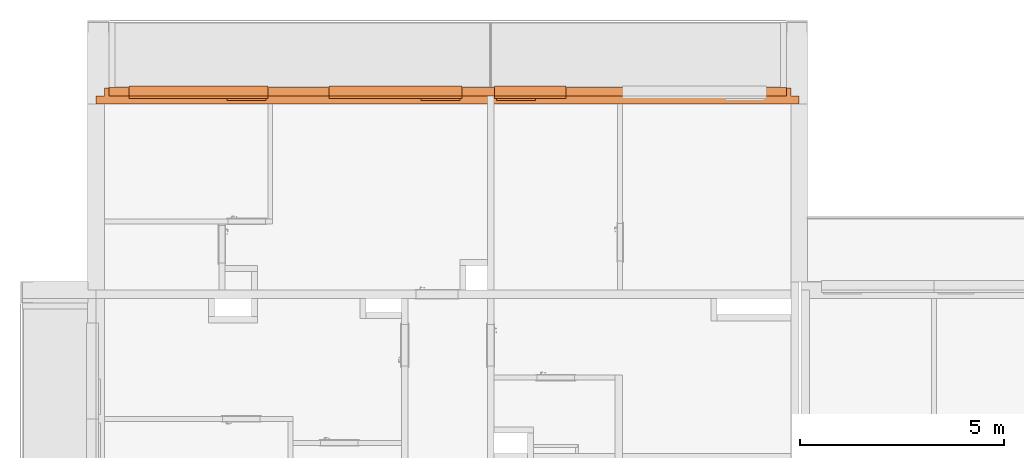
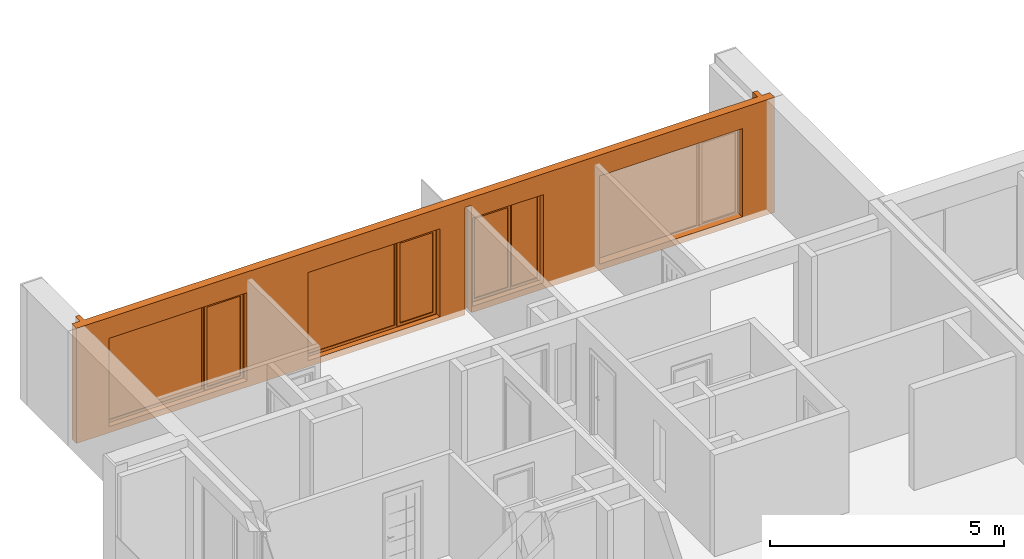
# One storey, part 48 of 66: 4 proxies, 4 openings.
"""IFC2X3 building model written with IfcOpenShell, lengths in millimetres."""

from ifc_helpers import new_model, entity, si_unit, converted_unit, derived_unit, money_unit, direction, frame, origin_with_axes, origin_2d_with_axis, place, context, subcontext, project, spatial, rectangle, extrude, open_shell, faceted_brep, surface_model, source, transform, mapped, material, material_list, type_object, element, fill, save


model = new_model("IFC2X3")

# Units and contexts
model_context = context("Model", 3, precision=0.01, world=origin_with_axes(), true_north=direction((0.34421633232, 0.938890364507)))
body_context = subcontext(model_context, "Body", "Model", "MODEL_VIEW")
ifc_project = project(units=[si_unit("LENGTHUNIT", "METRE", prefix="MILLI"), si_unit("AREAUNIT", "SQUARE_METRE"), si_unit("VOLUMEUNIT", "CUBIC_METRE"), converted_unit("PLANEANGLEUNIT", "DEGREE", entity("IfcPlaneAngleMeasure", 0.0174532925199), si_unit("PLANEANGLEUNIT", "RADIAN"), dimensions=[0, 0, 0, 0, 0, 0, 0]), si_unit("SOLIDANGLEUNIT", "STERADIAN"), money_unit("USD"), converted_unit("TIMEUNIT", "Year", entity("IfcTimeMeasure", 31556926.0), si_unit("TIMEUNIT", "SECOND"), dimensions=[0, 0, 1, 0, 0, 0, 0]), si_unit("MASSUNIT", "GRAM", prefix="KILO"), si_unit("THERMODYNAMICTEMPERATUREUNIT", "DEGREE_CELSIUS"), si_unit("LUMINOUSINTENSITYUNIT", "LUMEN"), si_unit("ENERGYUNIT", "JOULE", prefix="MEGA"), derived_unit("THERMALCONDUCTANCEUNIT", [(si_unit("POWERUNIT", "WATT"), 1), (si_unit("LENGTHUNIT", "METRE"), -1), (si_unit("THERMODYNAMICTEMPERATUREUNIT", "KELVIN"), -1)]), derived_unit("SPECIFICHEATCAPACITYUNIT", [(si_unit("ENERGYUNIT", "JOULE"), 1), (si_unit("MASSUNIT", "GRAM", prefix="KILO"), -1), (si_unit("THERMODYNAMICTEMPERATUREUNIT", "KELVIN"), -1)]), derived_unit("MASSDENSITYUNIT", [(si_unit("MASSUNIT", "GRAM", prefix="KILO"), 1), (si_unit("VOLUMEUNIT", "CUBIC_METRE"), -1)])], contexts=[model_context])

# Site, building, storey
site_placement = place(None, origin_with_axes())
site = spatial("IfcSite", under=ifc_project, at=site_placement, Name="USTRONIE MORSKIE", CompositionType="ELEMENT")
building_placement = place(site_placement, origin_with_axes())
building = spatial("IfcBuilding", under=site, at=building_placement, Name="Budynek", CompositionType="ELEMENT")
storey_placement = place(building_placement, frame((0.0, 0.0, 10000.0), z_axis=(0.0, 0.0, 1.0), x_axis=(1.0, 0.0, 0.0)))
storey = spatial("IfcBuildingStorey", under=building, at=storey_placement, Name="PIĘTRO 3", CompositionType="ELEMENT", Elevation=10000.0)

# Proxies, openings
ifc_material_1 = material(Name="Tynk zewnętrzny")
ifc_material_2 = material(Name="Wełna ELEW")
ifc_material_3 = material(Name="Beton konstrukcyjny B25")
ifc_material_list = material_list([ifc_material_1, ifc_material_2, ifc_material_3])
building_element_proxy_type_1 = type_object("IfcBuildingElementProxyType", Name="20+20 410", PredefinedType="NOTDEFINED")
proxy_1_placement = place(storey_placement, frame((350067.920919, 749451.199036, -160.0), z_axis=(0.0, 0.0, 1.0), x_axis=(1.0, 0.0, 0.0)))
proxy_1 = element("IfcBuildingElementProxy", 1, at=proxy_1_placement, inside=storey, type_object=building_element_proxy_type_1, material=ifc_material_list, Name="SZ-01", context=body_context, shape_type="Brep", body=[
    faceted_brep([(200.0, 300.0, 0.0), (200.0, 310.0, 0.0), (210.132928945, 310.0, 0.0), (210.132837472, 299.997991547, 2.27125624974e-05), (200.0, 300.0, 3000.0), (200.0, 310.0, 3000.0), (209.867070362, 310.0, 2999.9999951), (209.867070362, 310.0, 2789.99999183), (16789.8670711, 309.997397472, 2789.99999183), (16789.8670711, 309.99788162, 2800.00001425), (16789.8670711, 310.0, 2999.9999951), (16800.0, 310.0, 3000.0), (16800.0, 310.0, 0.0), (16790.1329296, 310.0, 0.0), (16790.1329296, 310.0, 9.99999626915), (210.132928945, 310.0, 9.9999962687), (210.132837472, 299.997970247, 9.99999623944), (16790.1328382, 300.0, 9.99999623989), (16790.1328382, 300.0, 0.0), (16800.0, 300.0, 0.0), (16800.0, 300.0, 3000.0), (16789.8671625, 299.997991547, 3000.00002271), (16789.8671625, 300.0, 2800.00001286), (209.867161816, 300.0, 2800.00001288), (209.867161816, 300.0, 2999.99999495), (209.867071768, 309.846250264, 2800.00001425), (209.867071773, 309.845766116, 2789.99999183)], [[[0, 1, 2, 3]], [[0, 4, 5, 1]], [[6, 7, 8, 9, 10, 11, 12, 13, 14, 15, 2, 1, 5]], [[16, 3, 2, 15]], [[4, 0, 3, 16, 17, 18, 19, 20, 21, 22, 23, 24]], [[4, 24, 6, 5]], [[25, 26, 7, 6, 24, 23]], [[7, 26, 8]], [[26, 25, 9, 8]], [[9, 22, 21, 10]], [[10, 21, 20, 11]], [[20, 19, 12, 11]], [[18, 13, 12, 19]], [[18, 17, 14, 13]], [[17, 16, 15, 14]], [[25, 23, 22, 9]]]),
    faceted_brep([(16789.8680771, 199.997967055, 2799.99999896), (16789.8689916, 99.9979946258, 2799.99999896), (16789.8689916, 99.9979946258, 3000.00002048), (16789.8680771, 199.997967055, 3000.00002048), (16789.8671625, 299.997991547, 3000.00002271), (16789.8671625, 300.0, 2800.00001286), (209.868077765, 199.846335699, 2799.99999896), (209.868990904, 100.0, 2799.99999896), (209.868990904, 100.0, 3000.00002048), (100.0, 100.0, 3000.0), (100.0, 100.0, 0.0), (16900.0, 100.0, 0.0), (16900.0, 100.0, 3000.0), (16900.0, 300.0, 3000.0), (209.867161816, 300.0, 3000.00002271), (209.867161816, 300.0, 2800.00001288), (16900.0, 300.0, 0.0), (16790.1328382, 300.0, -5.04920549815e-06), (16790.1328382, 300.0, 9.99999623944), (210.13283749, 300.0, 9.99999623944), (210.132837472, 299.997970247, -5.05150943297e-06), (100.0, 300.0, 0.0), (100.0, 300.0, 3000.0), (209.868077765, 199.846335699, 3000.00002048), (16790.1328368, 299.846338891, -5.05150943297e-06), (16790.1328368, 299.846338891, 9.99999623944)], [[[0, 1, 2, 3, 4, 5]], [[0, 6, 7, 1]], [[7, 8, 9, 10, 11, 12, 2, 1]], [[3, 2, 12, 13, 4]], [[14, 15, 5, 4, 13, 16, 17, 18, 19, 20, 21, 22]], [[6, 0, 5, 15]], [[23, 8, 7, 6, 15, 14]], [[8, 23, 14, 22, 9]], [[10, 9, 22, 21]], [[21, 20, 24, 17, 16, 11, 10]], [[13, 12, 11, 16]], [[24, 25, 18, 17]], [[25, 19, 18]], [[19, 25, 24, 20]]]),
    faceted_brep([(9469.99997834, 100.0, 2800.0), (9469.99997834, 100.0, 0.0), (-100.0, 100.0, 0.0), (-100.0, 100.0, 3000.0), (17100.0, 100.0, 3000.0), (17100.0, 100.0, 0.0), (9629.99997834, 100.0, 0.0), (9629.99997834, 100.0, 2800.0), (9469.99997834, -100.0, 2800.0), (9469.99997834, -100.0, 0.0), (-100.0, -100.0, 0.0), (-100.0, -100.0, 3000.0), (17100.0, -100.0, 3000.0), (17100.0, -100.0, 0.0), (9629.99997834, -100.0, 0.0), (9629.99997834, -100.0, 2800.0)], [[[0, 1, 2, 3, 4, 5, 6, 7]], [[1, 0, 8, 9]], [[1, 9, 10, 2]], [[10, 11, 3, 2]], [[12, 4, 3, 11]], [[4, 12, 13, 5]], [[14, 6, 5, 13]], [[7, 6, 14, 15]], [[0, 7, 15, 8]], [[15, 14, 13, 12, 11, 10, 9, 8]]]),
])
opening_1_placement = place(proxy_1_placement, frame((2400.0, 0.0, 160.0), z_axis=(0.0, 0.0, 1.0), x_axis=(1.0, 0.0, 0.0)))
opening_1 = element("IfcOpeningElement", 2, at=opening_1_placement, cuts=proxy_1, Name="Wz.02", context=body_context, shape_type="SweptSolid", body=[
    extrude(rectangle(XDim=3400.0, YDim=2300.0, at=origin_2d_with_axis()), frame((0.0, 99.9999999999, 1150.0), z_axis=(0.0, 1.0, 0.0), x_axis=(1.0, 0.0, 0.0)), (0.0, 0.0, 1.0), 620.0),
    extrude(rectangle(XDim=3400.0, YDim=2300.0, at=origin_2d_with_axis()), frame((0.0, 100.0, 1150.0), z_axis=(0.0, -1.0, 0.0), x_axis=(1.0, 0.0, 0.0)), (0.0, 0.0, 1.0), 610.0),
])
opening_2_placement = place(proxy_1_placement, frame((7224.99942067, 0.0, 160.0), z_axis=(0.0, 0.0, 1.0), x_axis=(1.0, 0.0, 0.0)))
opening_2 = element("IfcOpeningElement", 3, at=opening_2_placement, cuts=proxy_1, Name="Wz.02", context=body_context, shape_type="SweptSolid", body=[
    extrude(rectangle(XDim=3249.99884135, YDim=2300.0, at=origin_2d_with_axis()), frame((0.0, 99.9999999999, 1150.0), z_axis=(0.0, 1.0, 0.0), x_axis=(1.0, 0.0, 0.0)), (0.0, 0.0, 1.0), 620.0),
    extrude(rectangle(XDim=3249.99884135, YDim=2300.0, at=origin_2d_with_axis()), frame((0.0, 100.0, 1150.0), z_axis=(0.0, -1.0, 0.0), x_axis=(1.0, 0.0, 0.0)), (0.0, 0.0, 1.0), 610.0),
])
opening_3_placement = place(proxy_1_placement, frame((10525.0, 0.0, 160.0), z_axis=(0.0, 0.0, 1.0), x_axis=(1.0, 0.0, 0.0)))
opening_3 = element("IfcOpeningElement", 4, at=opening_3_placement, cuts=proxy_1, Name="Wz.01", context=body_context, shape_type="SweptSolid", body=[
    extrude(rectangle(XDim=1750.0, YDim=2300.0, at=origin_2d_with_axis()), frame((0.0, 99.9999999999, 1150.0), z_axis=(0.0, -1.0, 0.0), x_axis=(-1.0, 0.0, 0.0)), (0.0, 0.0, -1.0), 620.0),
    extrude(rectangle(XDim=1750.0, YDim=2300.0, at=origin_2d_with_axis()), frame((0.0, 100.0, 1150.0), z_axis=(0.0, 1.0, 0.0), x_axis=(-1.0, 0.0, 0.0)), (0.0, 0.0, -1.0), 610.0),
])
opening_4_placement = place(proxy_1_placement, frame((14539.9999774, 0.0, 160.0), z_axis=(0.0, 0.0, 1.0), x_axis=(1.0, 0.0, 0.0)))
element("IfcOpeningElement", 5, at=opening_4_placement, cuts=proxy_1, Name="Wz.02", context=body_context, shape_type="SweptSolid", body=[
    extrude(rectangle(XDim=3520.00004519, YDim=2300.0, at=origin_2d_with_axis()), frame((0.0, 99.9999999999, 1150.0), z_axis=(0.0, 1.0, 0.0), x_axis=(1.0, 0.0, 0.0)), (0.0, 0.0, 1.0), 620.0),
    extrude(rectangle(XDim=3520.00004519, YDim=2300.0, at=origin_2d_with_axis()), frame((0.0, 100.0, 1150.0), z_axis=(0.0, -1.0, 0.0), x_axis=(1.0, 0.0, 0.0)), (0.0, 0.0, 1.0), 610.0),
])
building_element_proxy_type_2 = type_object("IfcBuildingElementProxyType", Name="Okno podwójne 23", PredefinedType="NOTDEFINED")
shared_shape_1 = source(origin_with_axes(), body_context, "Body", "SurfaceModel", [
    faceted_brep([(1700.0, -65.0, 5.0), (1700.0, -65.0, 30.0), (1700.0, -275.0, 30.0), (1700.0, -275.0, 5.0), (-1700.0, -65.0, 5.0), (-1700.0, -65.0, 30.0), (-1700.0, -275.0, 30.0), (-1700.0, -305.0, 30.0), (1700.0, -305.0, 30.0), (1700.0, -305.0, 5.0), (-1700.0, -305.0, 5.0), (-1700.0, -275.0, 5.0)], [[[0, 1, 2, 3]], [[4, 5, 1, 0]], [[1, 5, 6, 7, 8, 2]], [[3, 2, 8, 9]], [[0, 3, 9, 10, 11, 4]], [[11, 6, 5, 4]], [[10, 7, 6, 11]], [[9, 8, 7, 10]]]),
    faceted_brep([(1700.0, -65.0, 0.0), (1700.0, -65.0, 5.0), (1700.0, -275.0, 5.0), (1700.0, -275.0, 0.0), (-1700.0, -65.0, 0.0), (-1700.0, -65.0, 5.0), (-1700.0, -275.0, 5.0), (-1700.0, -275.0, 0.0)], [[[0, 1, 2, 3]], [[4, 5, 1, 0]], [[1, 5, 6, 2]], [[3, 2, 6, 7]], [[0, 3, 7, 4]], [[7, 6, 5, 4]]]),
    faceted_brep([(-1630.0, -25.0, 2230.0), (-1655.0, -25.0, 2230.0), (-1655.0, 0.0, 2230.0), (-1700.0, 0.0, 2230.0), (-1700.0, -65.0, 2230.0), (-1630.0, -65.0, 2230.0), (-1630.0, -25.0, 70.0), (-1655.0, -25.0, 70.0), (-1655.0, 0.0, 70.0), (-1700.0, 0.0, 70.0), (-1700.0, -65.0, 70.0), (-1630.0, -65.0, 70.0)], [[[0, 1, 2, 3, 4, 5]], [[1, 0, 6, 7]], [[8, 2, 1, 7]], [[2, 8, 9, 3]], [[9, 10, 4, 3]], [[10, 11, 5, 4]], [[6, 0, 5, 11]], [[7, 6, 11, 10, 9, 8]]]),
    faceted_brep([(-702.5, 0.0, 2230.0), (-702.5, -25.0, 2230.0), (-727.5, -25.0, 2230.0), (-727.5, -65.0, 2230.0), (-662.5, -65.0, 2230.0), (-662.5, 0.0, 2230.0), (-702.5, 0.0, 70.0), (-702.5, -25.0, 70.0), (-727.5, -25.0, 70.0), (-727.5, -65.0, 70.0), (-662.5, -65.0, 70.0), (-662.5, 0.0, 70.0)], [[[0, 1, 2, 3, 4, 5]], [[1, 0, 6, 7]], [[8, 2, 1, 7]], [[2, 8, 9, 3]], [[9, 10, 4, 3]], [[5, 4, 10, 11]], [[6, 0, 5, 11]], [[7, 6, 11, 10, 9, 8]]]),
    faceted_brep([(-1630.0, -25.0, 70.0), (-1655.0, -25.0, 70.0), (-1655.0, 0.0, 70.0), (-1700.0, 0.0, 70.0), (-1700.0, -65.0, 70.0), (-1630.0, -65.0, 70.0), (-727.5, -25.0, 70.0), (-702.5, -25.0, 70.0), (-702.5, -25.0, 45.0), (-1655.0, -25.0, 45.0), (-1655.0, 0.0, 45.0), (-702.5, 0.0, 45.0), (-702.5, 0.0, 70.0), (-662.5, 0.0, 70.0), (1630.0, 0.0, 70.0), (1700.0, 0.0, 70.0), (1700.0, 0.0, 0.0), (-1700.0, 0.0, 0.0), (-1700.0, -65.0, 0.0), (1700.0, -65.0, 70.0), (1630.0, -65.0, 70.0), (-662.5, -65.0, 70.0), (-727.5, -65.0, 70.0), (1700.0, -65.0, 0.0)], [[[0, 1, 2, 3, 4, 5]], [[1, 0, 6, 7, 8, 9]], [[10, 2, 1, 9]], [[11, 12, 13, 14, 15, 16, 17, 3, 2, 10]], [[17, 18, 4, 3]], [[19, 20, 21, 22, 5, 4, 18, 23]], [[6, 0, 5, 22]], [[7, 6, 22, 21, 13, 12]], [[7, 12, 11, 8]], [[11, 10, 9, 8]], [[13, 21, 20, 14]], [[14, 20, 19, 15]], [[15, 19, 23, 16]], [[16, 23, 18, 17]]]),
    faceted_brep([(-702.5, 0.0, 2230.0), (-702.5, 0.0, 2255.0), (-1655.0, 0.0, 2255.0), (-1655.0, 0.0, 2230.0), (-1700.0, 0.0, 2230.0), (-1700.0, 0.0, 2300.0), (1700.0, 0.0, 2300.0), (1700.0, 0.0, 2230.0), (1630.0, 0.0, 2230.0), (-662.5, 0.0, 2230.0), (-702.5, -25.0, 2230.0), (-702.5, -25.0, 2255.0), (-1655.0, -25.0, 2255.0), (-1655.0, -25.0, 2230.0), (-1630.0, -25.0, 2230.0), (-1630.0, -65.0, 2230.0), (-1700.0, -65.0, 2230.0), (-1700.0, -65.0, 2300.0), (1700.0, -65.0, 2300.0), (1700.0, -65.0, 2230.0), (1630.0, -65.0, 2230.0), (-662.5, -65.0, 2230.0), (-727.5, -65.0, 2230.0), (-727.5, -25.0, 2230.0)], [[[0, 1, 2, 3, 4, 5, 6, 7, 8, 9]], [[1, 0, 10, 11]], [[2, 1, 11, 12]], [[3, 2, 12, 13]], [[13, 14, 15, 16, 4, 3]], [[4, 16, 17, 5]], [[5, 17, 18, 6]], [[6, 18, 19, 7]], [[7, 19, 20, 8]], [[8, 20, 21, 9]], [[10, 0, 9, 21, 22, 23]], [[14, 13, 12, 11, 10, 23]], [[14, 23, 22, 15]], [[22, 21, 20, 19, 18, 17, 16, 15]]]),
    faceted_brep([(1630.0, -65.0, 2230.0), (1700.0, -65.0, 2230.0), (1700.0, 0.0, 2230.0), (1630.0, 0.0, 2230.0), (1630.0, -65.0, 70.0), (1700.0, -65.0, 70.0), (1700.0, 0.0, 70.0), (1630.0, 0.0, 70.0)], [[[0, 1, 2, 3]], [[0, 4, 5, 1]], [[1, 5, 6, 2]], [[3, 2, 6, 7]], [[4, 0, 3, 7]], [[5, 4, 7, 6]]]),
    surface_model("IfcShellBasedSurfaceModel", [(1630.0, -35.0, 70.0), (1630.0, -35.0, 2230.0), (-662.5, -35.0, 2230.0), (-662.5, -35.0, 70.0)], [open_shell([[[0, 1, 2, 3]]])]),
    surface_model("IfcShellBasedSurfaceModel", [(1630.0, -15.0, 70.0), (-662.5, -15.0, 70.0), (-662.5, -15.0, 2230.0), (1630.0, -15.0, 2230.0)], [open_shell([[[0, 1, 2, 3]]])]),
    faceted_brep([(-767.5, -25.0, 2190.0), (-702.5, -25.0, 2190.0), (-702.5, 40.0, 2190.0), (-767.5, 40.0, 2190.0), (-767.5, -25.0, 110.0), (-702.5, -25.0, 110.0), (-702.5, 40.0, 110.0), (-767.5, 40.0, 110.0)], [[[0, 1, 2, 3]], [[0, 4, 5, 1]], [[1, 5, 6, 2]], [[3, 2, 6, 7]], [[4, 0, 3, 7]], [[5, 4, 7, 6]]]),
    faceted_brep([(-1590.0, -25.0, 110.0), (-1655.0, -25.0, 110.0), (-1655.0, 40.0, 110.0), (-1590.0, 40.0, 110.0), (-1590.0, -25.0, 2190.0), (-1655.0, -25.0, 2190.0), (-1655.0, 40.0, 2190.0), (-1590.0, 40.0, 2190.0)], [[[0, 1, 2, 3]], [[0, 4, 5, 1]], [[1, 5, 6, 2]], [[3, 2, 6, 7]], [[4, 0, 3, 7]], [[5, 4, 7, 6]]]),
    faceted_brep([(-1655.0, -25.0, 45.0), (-1655.0, -25.0, 110.0), (-1655.0, 40.0, 110.0), (-1655.0, 40.0, 45.0), (-702.5, -25.0, 45.0), (-702.5, -25.0, 110.0), (-767.5, -25.0, 110.0), (-1590.0, -25.0, 110.0), (-1590.0, 40.0, 110.0), (-767.5, 40.0, 110.0), (-702.5, 40.0, 110.0), (-702.5, 40.0, 45.0)], [[[0, 1, 2, 3]], [[0, 4, 5, 6, 7, 1]], [[1, 7, 8, 2]], [[3, 2, 8, 9, 10, 11]], [[4, 0, 3, 11]], [[5, 4, 11, 10]], [[6, 5, 10, 9]], [[7, 6, 9, 8]]]),
    faceted_brep([(-702.5, -25.0, 2255.0), (-702.5, -25.0, 2190.0), (-702.5, 40.0, 2190.0), (-702.5, 40.0, 2255.0), (-1655.0, -25.0, 2255.0), (-1655.0, -25.0, 2190.0), (-1590.0, -25.0, 2190.0), (-767.5, -25.0, 2190.0), (-767.5, 40.0, 2190.0), (-1590.0, 40.0, 2190.0), (-1655.0, 40.0, 2190.0), (-1655.0, 40.0, 2255.0)], [[[0, 1, 2, 3]], [[0, 4, 5, 6, 7, 1]], [[1, 7, 8, 2]], [[3, 2, 8, 9, 10, 11]], [[4, 0, 3, 11]], [[5, 4, 11, 10]], [[6, 5, 10, 9]], [[7, 6, 9, 8]]]),
    surface_model("IfcShellBasedSurfaceModel", [(-767.5, -2.5, 110.0), (-767.5, -2.5, 2190.0), (-1590.0, -2.5, 2190.0), (-1590.0, -2.5, 110.0)], [open_shell([[[0, 1, 2, 3]]])]),
    surface_model("IfcShellBasedSurfaceModel", [(-767.5, 17.5, 110.0), (-1590.0, 17.5, 110.0), (-1590.0, 17.5, 2190.0), (-767.5, 17.5, 2190.0)], [open_shell([[[0, 1, 2, 3]]])]),
])
proxy_2_placement = place(opening_1_placement, frame((1700.0, 0.0, 0.0), z_axis=(0.0, 0.0, 1.0), x_axis=(-1.0, 0.0, 0.0)))
proxy_2 = element("IfcBuildingElementProxy", 6, at=proxy_2_placement, inside=storey, type_object=building_element_proxy_type_2, Name="Wz.02", context=body_context, shape_type="MappedRepresentation", body=[
    mapped(shared_shape_1, transform((1700.0, -35.0, 0.0))),
])
fill(opening_1, proxy_2)
shared_shape_2 = source(origin_with_axes(), body_context, "Body", "SurfaceModel", [
    faceted_brep([(1624.99942067, -65.0, 5.0), (1624.99942067, -65.0, 30.0), (1624.99942067, -275.0, 30.0), (1624.99942067, -275.0, 5.0), (-1624.99942067, -65.0, 5.0), (-1624.99942067, -65.0, 30.0), (-1624.99942067, -275.0, 30.0), (-1624.99942067, -305.0, 30.0), (1624.99942067, -305.0, 30.0), (1624.99942067, -305.0, 5.0), (-1624.99942067, -305.0, 5.0), (-1624.99942067, -275.0, 5.0)], [[[0, 1, 2, 3]], [[4, 5, 1, 0]], [[1, 5, 6, 7, 8, 2]], [[3, 2, 8, 9]], [[0, 3, 9, 10, 11, 4]], [[11, 6, 5, 4]], [[10, 7, 6, 11]], [[9, 8, 7, 10]]]),
    faceted_brep([(1624.99942067, -65.0, 0.0), (1624.99942067, -65.0, 5.0), (1624.99942067, -275.0, 5.0), (1624.99942067, -275.0, 0.0), (-1624.99942067, -65.0, 0.0), (-1624.99942067, -65.0, 5.0), (-1624.99942067, -275.0, 5.0), (-1624.99942067, -275.0, 0.0)], [[[0, 1, 2, 3]], [[4, 5, 1, 0]], [[1, 5, 6, 2]], [[3, 2, 6, 7]], [[0, 3, 7, 4]], [[7, 6, 5, 4]]]),
    faceted_brep([(-1554.99942067, -25.0, 2230.0), (-1579.99942067, -25.0, 2230.0), (-1579.99942067, 0.0, 2230.0), (-1624.99942067, 0.0, 2230.0), (-1624.99942067, -65.0, 2230.0), (-1554.99942067, -65.0, 2230.0), (-1554.99942067, -25.0, 70.0), (-1579.99942067, -25.0, 70.0), (-1579.99942067, 0.0, 70.0), (-1624.99942067, 0.0, 70.0), (-1624.99942067, -65.0, 70.0), (-1554.99942067, -65.0, 70.0)], [[[0, 1, 2, 3, 4, 5]], [[1, 0, 6, 7]], [[8, 2, 1, 7]], [[2, 8, 9, 3]], [[9, 10, 4, 3]], [[10, 11, 5, 4]], [[6, 0, 5, 11]], [[7, 6, 11, 10, 9, 8]]]),
    faceted_brep([(-627.499420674, 0.0, 2230.0), (-627.499420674, -25.0, 2230.0), (-652.499420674, -25.0, 2230.0), (-652.499420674, -65.0, 2230.0), (-587.499420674, -65.0, 2230.0), (-587.499420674, 0.0, 2230.0), (-627.499420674, 0.0, 70.0), (-627.499420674, -25.0, 70.0), (-652.499420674, -25.0, 70.0), (-652.499420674, -65.0, 70.0), (-587.499420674, -65.0, 70.0), (-587.499420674, 0.0, 70.0)], [[[0, 1, 2, 3, 4, 5]], [[1, 0, 6, 7]], [[8, 2, 1, 7]], [[2, 8, 9, 3]], [[9, 10, 4, 3]], [[5, 4, 10, 11]], [[6, 0, 5, 11]], [[7, 6, 11, 10, 9, 8]]]),
    faceted_brep([(-1554.99942067, -25.0, 70.0), (-1579.99942067, -25.0, 70.0), (-1579.99942067, 0.0, 70.0), (-1624.99942067, 0.0, 70.0), (-1624.99942067, -65.0, 70.0), (-1554.99942067, -65.0, 70.0), (-652.499420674, -25.0, 70.0), (-627.499420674, -25.0, 70.0), (-627.499420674, -25.0, 45.0), (-1579.99942067, -25.0, 45.0), (-1579.99942067, 0.0, 45.0), (-627.499420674, 0.0, 45.0), (-627.499420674, 0.0, 70.0), (-587.499420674, 0.0, 70.0), (1554.99942067, 0.0, 70.0), (1624.99942067, 0.0, 70.0), (1624.99942067, 0.0, 0.0), (-1624.99942067, 0.0, 0.0), (-1624.99942067, -65.0, 0.0), (1624.99942067, -65.0, 70.0), (1554.99942067, -65.0, 70.0), (-587.499420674, -65.0, 70.0), (-652.499420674, -65.0, 70.0), (1624.99942067, -65.0, 0.0)], [[[0, 1, 2, 3, 4, 5]], [[1, 0, 6, 7, 8, 9]], [[10, 2, 1, 9]], [[11, 12, 13, 14, 15, 16, 17, 3, 2, 10]], [[17, 18, 4, 3]], [[19, 20, 21, 22, 5, 4, 18, 23]], [[6, 0, 5, 22]], [[7, 6, 22, 21, 13, 12]], [[7, 12, 11, 8]], [[11, 10, 9, 8]], [[13, 21, 20, 14]], [[14, 20, 19, 15]], [[15, 19, 23, 16]], [[16, 23, 18, 17]]]),
    faceted_brep([(-627.499420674, 0.0, 2230.0), (-627.499420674, 0.0, 2255.0), (-1579.99942067, 0.0, 2255.0), (-1579.99942067, 0.0, 2230.0), (-1624.99942067, 0.0, 2230.0), (-1624.99942067, 0.0, 2300.0), (1624.99942067, 0.0, 2300.0), (1624.99942067, 0.0, 2230.0), (1554.99942067, 0.0, 2230.0), (-587.499420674, 0.0, 2230.0), (-627.499420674, -25.0, 2230.0), (-627.499420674, -25.0, 2255.0), (-1579.99942067, -25.0, 2255.0), (-1579.99942067, -25.0, 2230.0), (-1554.99942067, -25.0, 2230.0), (-1554.99942067, -65.0, 2230.0), (-1624.99942067, -65.0, 2230.0), (-1624.99942067, -65.0, 2300.0), (1624.99942067, -65.0, 2300.0), (1624.99942067, -65.0, 2230.0), (1554.99942067, -65.0, 2230.0), (-587.499420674, -65.0, 2230.0), (-652.499420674, -65.0, 2230.0), (-652.499420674, -25.0, 2230.0)], [[[0, 1, 2, 3, 4, 5, 6, 7, 8, 9]], [[1, 0, 10, 11]], [[2, 1, 11, 12]], [[3, 2, 12, 13]], [[13, 14, 15, 16, 4, 3]], [[4, 16, 17, 5]], [[5, 17, 18, 6]], [[6, 18, 19, 7]], [[7, 19, 20, 8]], [[8, 20, 21, 9]], [[10, 0, 9, 21, 22, 23]], [[14, 13, 12, 11, 10, 23]], [[14, 23, 22, 15]], [[22, 21, 20, 19, 18, 17, 16, 15]]]),
    faceted_brep([(1554.99942067, -65.0, 2230.0), (1624.99942067, -65.0, 2230.0), (1624.99942067, 0.0, 2230.0), (1554.99942067, 0.0, 2230.0), (1554.99942067, -65.0, 70.0), (1624.99942067, -65.0, 70.0), (1624.99942067, 0.0, 70.0), (1554.99942067, 0.0, 70.0)], [[[0, 1, 2, 3]], [[0, 4, 5, 1]], [[1, 5, 6, 2]], [[3, 2, 6, 7]], [[4, 0, 3, 7]], [[5, 4, 7, 6]]]),
    surface_model("IfcShellBasedSurfaceModel", [(1554.99942067, -35.0, 70.0), (1554.99942067, -35.0, 2230.0), (-587.499420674, -35.0, 2230.0), (-587.499420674, -35.0, 70.0)], [open_shell([[[0, 1, 2, 3]]])]),
    surface_model("IfcShellBasedSurfaceModel", [(1554.99942067, -15.0, 70.0), (-587.499420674, -15.0, 70.0), (-587.499420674, -15.0, 2230.0), (1554.99942067, -15.0, 2230.0)], [open_shell([[[0, 1, 2, 3]]])]),
    faceted_brep([(-692.499420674, -25.0, 2190.0), (-627.499420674, -25.0, 2190.0), (-627.499420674, 40.0, 2190.0), (-692.499420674, 40.0, 2190.0), (-692.499420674, -25.0, 110.0), (-627.499420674, -25.0, 110.0), (-627.499420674, 40.0, 110.0), (-692.499420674, 40.0, 110.0)], [[[0, 1, 2, 3]], [[0, 4, 5, 1]], [[1, 5, 6, 2]], [[3, 2, 6, 7]], [[4, 0, 3, 7]], [[5, 4, 7, 6]]]),
    faceted_brep([(-1514.99942067, -25.0, 110.0), (-1579.99942067, -25.0, 110.0), (-1579.99942067, 40.0, 110.0), (-1514.99942067, 40.0, 110.0), (-1514.99942067, -25.0, 2190.0), (-1579.99942067, -25.0, 2190.0), (-1579.99942067, 40.0, 2190.0), (-1514.99942067, 40.0, 2190.0)], [[[0, 1, 2, 3]], [[0, 4, 5, 1]], [[1, 5, 6, 2]], [[3, 2, 6, 7]], [[4, 0, 3, 7]], [[5, 4, 7, 6]]]),
    faceted_brep([(-1579.99942067, -25.0, 45.0), (-1579.99942067, -25.0, 110.0), (-1579.99942067, 40.0, 110.0), (-1579.99942067, 40.0, 45.0), (-627.499420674, -25.0, 45.0), (-627.499420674, -25.0, 110.0), (-692.499420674, -25.0, 110.0), (-1514.99942067, -25.0, 110.0), (-1514.99942067, 40.0, 110.0), (-692.499420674, 40.0, 110.0), (-627.499420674, 40.0, 110.0), (-627.499420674, 40.0, 45.0)], [[[0, 1, 2, 3]], [[0, 4, 5, 6, 7, 1]], [[1, 7, 8, 2]], [[3, 2, 8, 9, 10, 11]], [[4, 0, 3, 11]], [[5, 4, 11, 10]], [[6, 5, 10, 9]], [[7, 6, 9, 8]]]),
    faceted_brep([(-627.499420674, -25.0, 2255.0), (-627.499420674, -25.0, 2190.0), (-627.499420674, 40.0, 2190.0), (-627.499420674, 40.0, 2255.0), (-1579.99942067, -25.0, 2255.0), (-1579.99942067, -25.0, 2190.0), (-1514.99942067, -25.0, 2190.0), (-692.499420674, -25.0, 2190.0), (-692.499420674, 40.0, 2190.0), (-1514.99942067, 40.0, 2190.0), (-1579.99942067, 40.0, 2190.0), (-1579.99942067, 40.0, 2255.0)], [[[0, 1, 2, 3]], [[0, 4, 5, 6, 7, 1]], [[1, 7, 8, 2]], [[3, 2, 8, 9, 10, 11]], [[4, 0, 3, 11]], [[5, 4, 11, 10]], [[6, 5, 10, 9]], [[7, 6, 9, 8]]]),
    surface_model("IfcShellBasedSurfaceModel", [(-692.499420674, -2.5, 110.0), (-692.499420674, -2.5, 2190.0), (-1514.99942067, -2.5, 2190.0), (-1514.99942067, -2.5, 110.0)], [open_shell([[[0, 1, 2, 3]]])]),
    surface_model("IfcShellBasedSurfaceModel", [(-692.499420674, 17.5, 110.0), (-1514.99942067, 17.5, 110.0), (-1514.99942067, 17.5, 2190.0), (-692.499420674, 17.5, 2190.0)], [open_shell([[[0, 1, 2, 3]]])]),
])
proxy_3_placement = place(opening_2_placement, frame((1624.99942067, 0.0, 0.0), z_axis=(0.0, 0.0, 1.0), x_axis=(-1.0, 0.0, 0.0)))
proxy_3 = element("IfcBuildingElementProxy", 7, at=proxy_3_placement, inside=storey, type_object=building_element_proxy_type_2, Name="Wz.02", context=body_context, shape_type="MappedRepresentation", body=[
    mapped(shared_shape_2, transform((1624.99942067, -35.0, 0.0))),
])
fill(opening_2, proxy_3)
shared_shape_3 = source(origin_with_axes(), body_context, "Body", "SurfaceModel", [
    surface_model("IfcShellBasedSurfaceModel", [(-875.0, -66.0, 50.0), (-875.0, -66.0, 40.0), (875.0, -66.0, 40.0), (875.0, -66.0, 50.0), (-875.0, -305.0, 28.5714285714), (875.0, -305.0, 28.5714285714), (-875.0, -305.0, 8.57142857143), (875.0, -305.0, 8.57142857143), (-875.0, -295.0, 18.5714285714), (875.0, -295.0, 18.5714285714)], [open_shell([[[0, 1, 2, 3]], [[1, 4, 5, 2]], [[4, 6, 7, 5]], [[6, 8, 9, 7]]])]),
    faceted_brep([(805.0, -25.0, 2230.0), (805.0, -65.0, 2230.0), (875.0, -65.0, 2230.0), (875.0, 0.0, 2230.0), (830.0, 0.0, 2230.0), (830.0, -25.0, 2230.0), (805.0, -25.0, 70.0), (805.0, -65.0, 70.0), (875.0, -65.0, 70.0), (875.0, 0.0, 70.0), (830.0, 0.0, 70.0), (830.0, -25.0, 70.0)], [[[0, 1, 2, 3, 4, 5]], [[6, 7, 1, 0]], [[8, 2, 1, 7]], [[9, 3, 2, 8]], [[4, 3, 9, 10]], [[10, 11, 5, 4]], [[5, 11, 6, 0]], [[11, 10, 9, 8, 7, 6]]]),
    faceted_brep([(-122.5, 0.0, 2230.0), (-162.5, 0.0, 2230.0), (-162.5, -65.0, 2230.0), (-97.5, -65.0, 2230.0), (-97.5, -25.0, 2230.0), (-122.5, -25.0, 2230.0), (-122.5, 0.0, 70.0), (-162.5, 0.0, 70.0), (-162.5, -65.0, 70.0), (-97.5, -65.0, 70.0), (-97.5, -25.0, 70.0), (-122.5, -25.0, 70.0)], [[[0, 1, 2, 3, 4, 5]], [[6, 7, 1, 0]], [[1, 7, 8, 2]], [[9, 3, 2, 8]], [[4, 3, 9, 10]], [[10, 11, 5, 4]], [[5, 11, 6, 0]], [[11, 10, 9, 8, 7, 6]]]),
    faceted_brep([(805.0, -25.0, 70.0), (805.0, -65.0, 70.0), (875.0, -65.0, 70.0), (875.0, 0.0, 70.0), (830.0, 0.0, 70.0), (830.0, -25.0, 70.0), (-97.5, -25.0, 70.0), (-97.5, -65.0, 70.0), (-875.0, -65.0, 70.0), (-875.0, -65.0, 0.0), (875.0, -65.0, 0.0), (-162.5, -65.0, 70.0), (-805.0, -65.0, 70.0), (875.0, 0.0, 0.0), (-122.5, 0.0, 45.0), (830.0, 0.0, 45.0), (-875.0, 0.0, 0.0), (-875.0, 0.0, 70.0), (-805.0, 0.0, 70.0), (-162.5, 0.0, 70.0), (-122.5, 0.0, 70.0), (830.0, -25.0, 45.0), (-122.5, -25.0, 45.0), (-122.5, -25.0, 70.0)], [[[0, 1, 2, 3, 4, 5]], [[6, 7, 1, 0]], [[8, 9, 10, 2, 1, 7, 11, 12]], [[13, 3, 2, 10]], [[14, 15, 4, 3, 13, 16, 17, 18, 19, 20]], [[15, 21, 5, 4]], [[5, 21, 22, 23, 6, 0]], [[23, 20, 19, 11, 7, 6]], [[17, 16, 9, 8]], [[16, 13, 10, 9]], [[19, 18, 12, 11]], [[18, 17, 8, 12]], [[14, 22, 21, 15]], [[23, 22, 14, 20]]]),
    faceted_brep([(-122.5, 0.0, 2230.0), (-162.5, 0.0, 2230.0), (-805.0, 0.0, 2230.0), (-875.0, 0.0, 2230.0), (-875.0, 0.0, 2300.0), (875.0, 0.0, 2300.0), (875.0, 0.0, 2230.0), (830.0, 0.0, 2230.0), (830.0, 0.0, 2255.0), (-122.5, 0.0, 2255.0), (-122.5, -25.0, 2230.0), (-97.5, -25.0, 2230.0), (-97.5, -65.0, 2230.0), (-162.5, -65.0, 2230.0), (-805.0, -65.0, 2230.0), (-875.0, -65.0, 2230.0), (-875.0, -65.0, 2300.0), (875.0, -65.0, 2300.0), (875.0, -65.0, 2230.0), (830.0, -25.0, 2230.0), (805.0, -65.0, 2230.0), (805.0, -25.0, 2230.0), (830.0, -25.0, 2255.0), (-122.5, -25.0, 2255.0)], [[[0, 1, 2, 3, 4, 5, 6, 7, 8, 9]], [[10, 11, 12, 13, 1, 0]], [[2, 1, 13, 14]], [[3, 2, 14, 15]], [[4, 3, 15, 16]], [[5, 4, 16, 17]], [[6, 5, 17, 18]], [[19, 7, 6, 18, 20, 21]], [[7, 19, 22, 8]], [[8, 22, 23, 9]], [[9, 23, 10, 0]], [[21, 11, 10, 23, 22, 19]], [[21, 20, 12, 11]], [[12, 20, 18, 17, 16, 15, 14, 13]]]),
    faceted_brep([(-805.0, -65.0, 2230.0), (-805.0, 0.0, 2230.0), (-875.0, 0.0, 2230.0), (-875.0, -65.0, 2230.0), (-805.0, -65.0, 70.0), (-805.0, 0.0, 70.0), (-875.0, 0.0, 70.0), (-875.0, -65.0, 70.0)], [[[0, 1, 2, 3]], [[4, 5, 1, 0]], [[1, 5, 6, 2]], [[3, 2, 6, 7]], [[0, 3, 7, 4]], [[7, 6, 5, 4]]]),
    surface_model("IfcShellBasedSurfaceModel", [(-805.0, -35.0, 70.0), (-162.5, -35.0, 70.0), (-162.5, -35.0, 2230.0), (-805.0, -35.0, 2230.0)], [open_shell([[[0, 1, 2, 3]]])]),
    surface_model("IfcShellBasedSurfaceModel", [(-805.0, -15.0, 70.0), (-805.0, -15.0, 2230.0), (-162.5, -15.0, 2230.0), (-162.5, -15.0, 70.0)], [open_shell([[[0, 1, 2, 3]]])]),
    faceted_brep([(-57.5, -25.0, 2190.0), (-57.5, 40.0, 2190.0), (-122.5, 40.0, 2190.0), (-122.5, -25.0, 2190.0), (-57.5, -25.0, 110.0), (-57.5, 40.0, 110.0), (-122.5, 40.0, 110.0), (-122.5, -25.0, 110.0)], [[[0, 1, 2, 3]], [[4, 5, 1, 0]], [[1, 5, 6, 2]], [[3, 2, 6, 7]], [[0, 3, 7, 4]], [[7, 6, 5, 4]]]),
    faceted_brep([(765.0, -25.0, 110.0), (765.0, 40.0, 110.0), (830.0, 40.0, 110.0), (830.0, -25.0, 110.0), (765.0, -25.0, 2190.0), (765.0, 40.0, 2190.0), (830.0, 40.0, 2190.0), (830.0, -25.0, 2190.0)], [[[0, 1, 2, 3]], [[4, 5, 1, 0]], [[1, 5, 6, 2]], [[3, 2, 6, 7]], [[0, 3, 7, 4]], [[7, 6, 5, 4]]]),
    faceted_brep([(830.0, -25.0, 45.0), (830.0, 40.0, 45.0), (830.0, 40.0, 110.0), (830.0, -25.0, 110.0), (-122.5, -25.0, 45.0), (-122.5, 40.0, 45.0), (-122.5, 40.0, 110.0), (-57.5, 40.0, 110.0), (765.0, 40.0, 110.0), (765.0, -25.0, 110.0), (-57.5, -25.0, 110.0), (-122.5, -25.0, 110.0)], [[[0, 1, 2, 3]], [[4, 5, 1, 0]], [[1, 5, 6, 7, 8, 2]], [[3, 2, 8, 9]], [[0, 3, 9, 10, 11, 4]], [[11, 6, 5, 4]], [[10, 7, 6, 11]], [[9, 8, 7, 10]]]),
    faceted_brep([(-122.5, -25.0, 2255.0), (-122.5, 40.0, 2255.0), (-122.5, 40.0, 2190.0), (-122.5, -25.0, 2190.0), (830.0, -25.0, 2255.0), (830.0, 40.0, 2255.0), (830.0, 40.0, 2190.0), (765.0, 40.0, 2190.0), (-57.5, 40.0, 2190.0), (-57.5, -25.0, 2190.0), (765.0, -25.0, 2190.0), (830.0, -25.0, 2190.0)], [[[0, 1, 2, 3]], [[4, 5, 1, 0]], [[1, 5, 6, 7, 8, 2]], [[3, 2, 8, 9]], [[0, 3, 9, 10, 11, 4]], [[11, 6, 5, 4]], [[10, 7, 6, 11]], [[9, 8, 7, 10]]]),
    surface_model("IfcShellBasedSurfaceModel", [(-57.5, -2.5, 110.0), (765.0, -2.5, 110.0), (765.0, -2.5, 2190.0), (-57.5, -2.5, 2190.0)], [open_shell([[[0, 1, 2, 3]]])]),
    surface_model("IfcShellBasedSurfaceModel", [(-57.5, 17.5, 110.0), (-57.5, 17.5, 2190.0), (765.0, 17.5, 2190.0), (765.0, 17.5, 110.0)], [open_shell([[[0, 1, 2, 3]]])]),
])
proxy_4_placement = place(opening_3_placement, frame((875.0, 0.0, 0.0), z_axis=(0.0, 0.0, 1.0), x_axis=(-1.0, 0.0, 0.0)))
proxy_4 = element("IfcBuildingElementProxy", 8, at=proxy_4_placement, inside=storey, type_object=building_element_proxy_type_2, Name="Wz.01", context=body_context, shape_type="MappedRepresentation", body=[
    mapped(shared_shape_3, transform((875.0, -35.0, 0.0))),
])
fill(opening_3, proxy_4)

save(model, "model.ifc")
